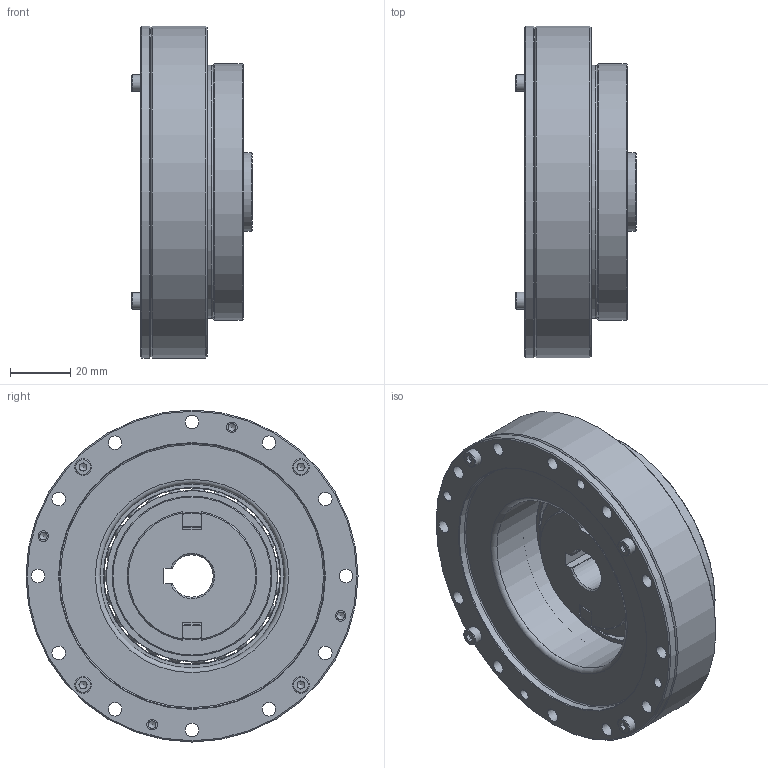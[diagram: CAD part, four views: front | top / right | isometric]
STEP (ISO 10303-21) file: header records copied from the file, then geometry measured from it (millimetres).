
FILE_DESCRIPTION (( 'STEP AP203' ), '1' );
FILE_NAME ('LHSG-25-XXX-C-II.STEP', '2025-07-09T01:53:30', ( '' ), ( '' ), 'SwSTEP 2.0', 'SolidWorks 2023', '' );
FILE_SCHEMA (( 'CONFIG_CONTROL_DESIGN' ));
Length unit declared in the file: millimetre
Products named in the file (1): LHSG-25-XXX-C-II
Bounding box: 40 x 110 x 110 mm (x, y, z)
Volume: 164781 mm3; surface area: 119803.3 mm2
Topology: 44 solids, 44 shells, 612 faces, 1481 edges, 941 vertices
Faces by surface type: plane 255, cylinder 209, cone 87, torus 38, sphere 23
Full cylindrical faces by diameter (mm): 2 x2, 2.5 x16, 3 x8, 3.3 x16, 3.5 x12, 4.5 x24, 4.7 x16, 5.5 x8, 6 x4, 24.9 x1, 26 x2, 27 x3, 32.5 x2, 42 x2, 45 x1, 45.22 x1, 48 x1, 48.39 x2, 50.1 x1, 53 x1, 56.6 x1, 58.356 x2, 61.072 x1, 61.32 x1, 61.772 x1, 63 x1, 64 x1, 67 x2, 70.8 x1, 77.119 x1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
Entity records: 15851 total; most frequent: DIRECTION 2938, CARTESIAN_POINT 2639, ORIENTED_EDGE 2174, AXIS2_PLACEMENT_3D 1274, EDGE_CURVE 1087, EDGE_LOOP 1020, VERTEX_POINT 831, FACE_OUTER_BOUND 779
